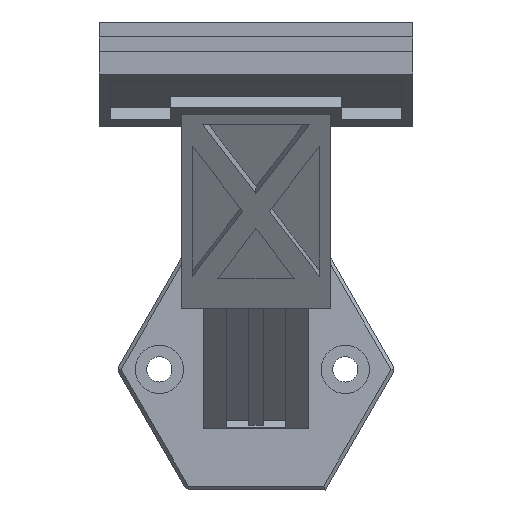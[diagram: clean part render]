
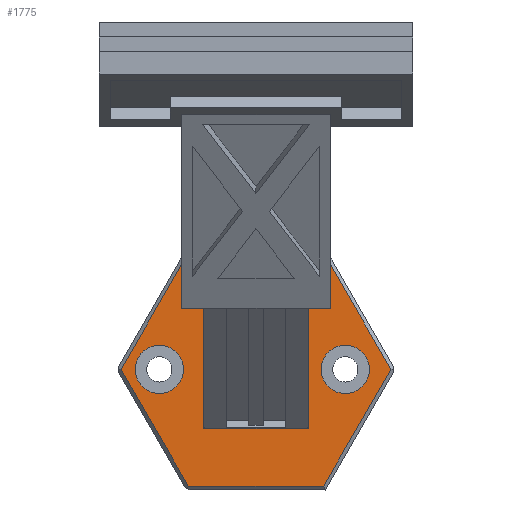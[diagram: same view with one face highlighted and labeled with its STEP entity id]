
A CAD part, top view. The second image highlights one B-rep face of the part: STEP entity #1775.
In plain terms, the highlighted planar face has unit normal (0, 0, 1).
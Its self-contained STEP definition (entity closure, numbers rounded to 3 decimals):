
#21=FACE_BOUND('',#162,.T.);
#22=FACE_BOUND('',#163,.T.);
#23=FACE_BOUND('',#164,.T.);
#37=CIRCLE('',#1880,3.25);
#38=CIRCLE('',#1881,3.25);
#59=FACE_OUTER_BOUND('',#161,.T.);
#161=EDGE_LOOP('',(#1249,#1250,#1251,#1252,#1253,#1254));
#162=EDGE_LOOP('',(#1255,#1256,#1257,#1258,#1259,#1260,#1261,#1262));
#163=EDGE_LOOP('',(#1263));
#164=EDGE_LOOP('',(#1264));
#267=LINE('',#2450,#510);
#285=LINE('',#2489,#528);
#292=LINE('',#2503,#535);
#300=LINE('',#2519,#543);
#303=LINE('',#2525,#546);
#307=LINE('',#2531,#550);
#309=LINE('',#2537,#552);
#310=LINE('',#2539,#553);
#311=LINE('',#2541,#554);
#312=LINE('',#2543,#555);
#313=LINE('',#2545,#556);
#314=LINE('',#2547,#557);
#315=LINE('',#2549,#558);
#316=LINE('',#2550,#559);
#510=VECTOR('',#1983,10.);
#528=VECTOR('',#2013,10.);
#535=VECTOR('',#2026,10.);
#543=VECTOR('',#2040,10.);
#546=VECTOR('',#2047,10.);
#550=VECTOR('',#2053,10.);
#552=VECTOR('',#2059,10.);
#553=VECTOR('',#2060,10.);
#554=VECTOR('',#2061,10.);
#555=VECTOR('',#2062,10.);
#556=VECTOR('',#2063,10.);
#557=VECTOR('',#2064,10.);
#558=VECTOR('',#2065,10.);
#559=VECTOR('',#2066,10.);
#752=VERTEX_POINT('',#2447);
#753=VERTEX_POINT('',#2449);
#768=VERTEX_POINT('',#2487);
#772=VERTEX_POINT('',#2501);
#777=VERTEX_POINT('',#2517);
#778=VERTEX_POINT('',#2524);
#780=VERTEX_POINT('',#2535);
#781=VERTEX_POINT('',#2536);
#782=VERTEX_POINT('',#2538);
#783=VERTEX_POINT('',#2540);
#784=VERTEX_POINT('',#2542);
#785=VERTEX_POINT('',#2544);
#786=VERTEX_POINT('',#2546);
#787=VERTEX_POINT('',#2548);
#788=VERTEX_POINT('',#2551);
#789=VERTEX_POINT('',#2553);
#918=EDGE_CURVE('',#752,#753,#267,.T.);
#938=EDGE_CURVE('',#768,#752,#285,.T.);
#945=EDGE_CURVE('',#772,#768,#292,.T.);
#953=EDGE_CURVE('',#777,#772,#300,.T.);
#956=EDGE_CURVE('',#753,#778,#303,.T.);
#960=EDGE_CURVE('',#778,#777,#307,.T.);
#962=EDGE_CURVE('',#780,#781,#309,.T.);
#963=EDGE_CURVE('',#781,#782,#310,.T.);
#964=EDGE_CURVE('',#782,#783,#311,.T.);
#965=EDGE_CURVE('',#784,#783,#312,.T.);
#966=EDGE_CURVE('',#785,#784,#313,.T.);
#967=EDGE_CURVE('',#786,#785,#314,.T.);
#968=EDGE_CURVE('',#786,#787,#315,.T.);
#969=EDGE_CURVE('',#787,#780,#316,.T.);
#970=EDGE_CURVE('',#788,#788,#37,.T.);
#971=EDGE_CURVE('',#789,#789,#38,.T.);
#1249=ORIENTED_EDGE('',*,*,#956,.F.);
#1250=ORIENTED_EDGE('',*,*,#918,.F.);
#1251=ORIENTED_EDGE('',*,*,#938,.F.);
#1252=ORIENTED_EDGE('',*,*,#945,.F.);
#1253=ORIENTED_EDGE('',*,*,#953,.F.);
#1254=ORIENTED_EDGE('',*,*,#960,.F.);
#1255=ORIENTED_EDGE('',*,*,#962,.T.);
#1256=ORIENTED_EDGE('',*,*,#963,.T.);
#1257=ORIENTED_EDGE('',*,*,#964,.T.);
#1258=ORIENTED_EDGE('',*,*,#965,.F.);
#1259=ORIENTED_EDGE('',*,*,#966,.F.);
#1260=ORIENTED_EDGE('',*,*,#967,.F.);
#1261=ORIENTED_EDGE('',*,*,#968,.T.);
#1262=ORIENTED_EDGE('',*,*,#969,.T.);
#1263=ORIENTED_EDGE('',*,*,#970,.T.);
#1264=ORIENTED_EDGE('',*,*,#971,.T.);
#1679=PLANE('',#1879);
#1775=ADVANCED_FACE('',(#59,#21,#22,#23),#1679,.F.);
#1879=AXIS2_PLACEMENT_3D('',#2534,#2057,#2058);
#1880=AXIS2_PLACEMENT_3D('',#2552,#2067,#2068);
#1881=AXIS2_PLACEMENT_3D('',#2554,#2069,#2070);
#1983=DIRECTION('',(0.5,-0.866,0.));
#2013=DIRECTION('',(1.,0.,0.));
#2026=DIRECTION('',(0.5,0.866,0.));
#2040=DIRECTION('',(-0.5,0.866,0.));
#2047=DIRECTION('',(-0.5,-0.866,0.));
#2053=DIRECTION('',(-1.,0.,0.));
#2057=DIRECTION('center_axis',(0.,0.,
-1.));
#2058=DIRECTION('ref_axis',(-0.866,-0.5,0.));
#2059=DIRECTION('',(-1.,0.,0.));
#2060=DIRECTION('',(0.447,0.894,0.));
#2061=DIRECTION('',(1.,0.,0.));
#2062=DIRECTION('',(0.,-1.,0.));
#2063=DIRECTION('',(-1.,0.,0.));
#2064=DIRECTION('',(0.,1.,0.));
#2065=DIRECTION('',(1.,0.,0.));
#2066=DIRECTION('',(0.447,-0.894,0.));
#2067=DIRECTION('center_axis',(0.,0.,
-1.));
#2068=DIRECTION('ref_axis',(0.5,-0.866,0.));
#2069=DIRECTION('center_axis',(0.,0.,
-1.));
#2070=DIRECTION('ref_axis',(0.5,-0.866,0.));
#2447=CARTESIAN_POINT('',(11.82,-51.08,7.116));
#2449=CARTESIAN_POINT('',(20.892,-66.793,7.116));
#2450=CARTESIAN_POINT('',(16.139,-58.561,7.116));
#2487=CARTESIAN_POINT('',(-6.324,-51.08,7.116));
#2489=CARTESIAN_POINT('',(2.748,-51.08,7.116));
#2501=CARTESIAN_POINT('',(-15.396,-66.793,7.116));
#2503=CARTESIAN_POINT('',(-10.644,-58.561,7.116));
#2517=CARTESIAN_POINT('',(-6.324,-82.506,7.116));
#2519=CARTESIAN_POINT('',(-11.077,-74.275,7.116));
#2524=CARTESIAN_POINT('',(11.82,-82.506,7.116));
#2525=CARTESIAN_POINT('',(16.572,-74.275,7.116));
#2531=CARTESIAN_POINT('',(2.748,-82.506,7.116));
#2534=CARTESIAN_POINT('Origin',(2.748,-65.793,7.116));
#2535=CARTESIAN_POINT('',(9.748,-74.793,7.116));
#2536=CARTESIAN_POINT('',(-4.252,-74.793,7.116));
#2537=CARTESIAN_POINT('',(2.748,-74.793,7.116));
#2538=CARTESIAN_POINT('',(0.748,-64.793,7.116));
#2539=CARTESIAN_POINT('',(1.169,-63.95,7.116));
#2540=CARTESIAN_POINT('',(1.748,-64.793,7.116));
#2541=CARTESIAN_POINT('',(2.748,-64.793,7.116));
#2542=CARTESIAN_POINT('',(1.748,-55.793,7.116));
#2543=CARTESIAN_POINT('',(1.748,-63.043,7.116));
#2544=CARTESIAN_POINT('',(3.748,-55.793,7.116));
#2545=CARTESIAN_POINT('',(2.748,-55.793,7.116));
#2546=CARTESIAN_POINT('',(3.748,-64.793,7.116));
#2547=CARTESIAN_POINT('',(3.748,-63.043,7.116));
#2548=CARTESIAN_POINT('',(4.748,-64.793,7.116));
#2549=CARTESIAN_POINT('',(2.748,-64.793,7.116));
#2550=CARTESIAN_POINT('',(4.326,-63.95,7.116));
#2551=CARTESIAN_POINT('',(13.123,-63.978,7.116));
#2552=CARTESIAN_POINT('Origin',(14.748,-66.793,7.116));
#2553=CARTESIAN_POINT('',(-11.877,-63.978,7.116));
#2554=CARTESIAN_POINT('Origin',(-10.252,-66.793,7.116));
